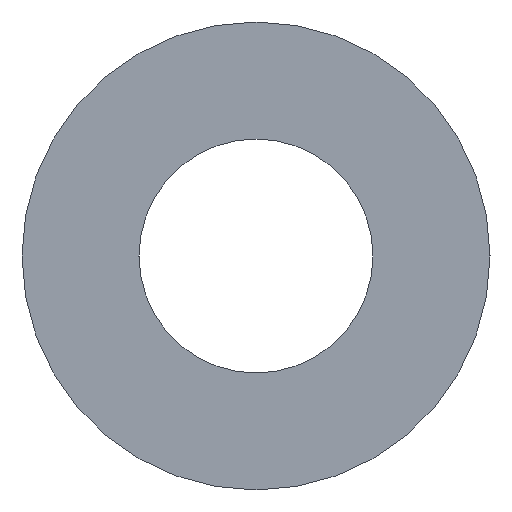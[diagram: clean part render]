
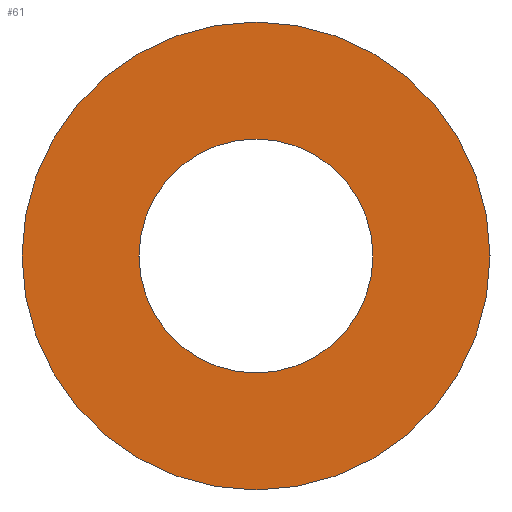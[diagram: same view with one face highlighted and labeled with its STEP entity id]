
A CAD part, left-side view. The second image highlights one B-rep face of the part: STEP entity #61.
In plain terms, the highlighted planar face has unit normal (-1, 0, 0).
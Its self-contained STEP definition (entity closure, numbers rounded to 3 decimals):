
#20=PLANE('',#80);
#24=ORIENTED_EDGE('',*,*,#32,.T.);
#25=ORIENTED_EDGE('',*,*,#30,.F.);
#30=EDGE_CURVE('',#34,#34,#38,.T.);
#32=EDGE_CURVE('',#36,#36,#40,.T.);
#34=VERTEX_POINT('',#106);
#36=VERTEX_POINT('',#111);
#38=CIRCLE('',#78,4.);
#40=CIRCLE('',#81,2.);
#44=EDGE_LOOP('',(#24));
#45=EDGE_LOOP('',(#25));
#52=FACE_BOUND('',#44,.T.);
#53=FACE_BOUND('',#45,.T.);
#61=ADVANCED_FACE('',(#52,#53),#20,.F.);
#78=AXIS2_PLACEMENT_3D('',#105,#89,#90);
#80=AXIS2_PLACEMENT_3D('',#109,#93,#94);
#81=AXIS2_PLACEMENT_3D('',#110,#95,#96);
#89=DIRECTION('',(1.,0.,0.));
#90=DIRECTION('',(0.,0.,-1.));
#93=DIRECTION('',(1.,0.,0.));
#94=DIRECTION('',(0.,0.,-1.));
#95=DIRECTION('',(1.,0.,0.));
#96=DIRECTION('',(0.,0.,-1.));
#105=CARTESIAN_POINT('',(-11.5,0.,0.));
#106=CARTESIAN_POINT('',(-11.5,0.,-4.));
#109=CARTESIAN_POINT('',(-11.5,0.,0.));
#110=CARTESIAN_POINT('',(-11.5,0.,0.));
#111=CARTESIAN_POINT('',(-11.5,0.,-2.));
